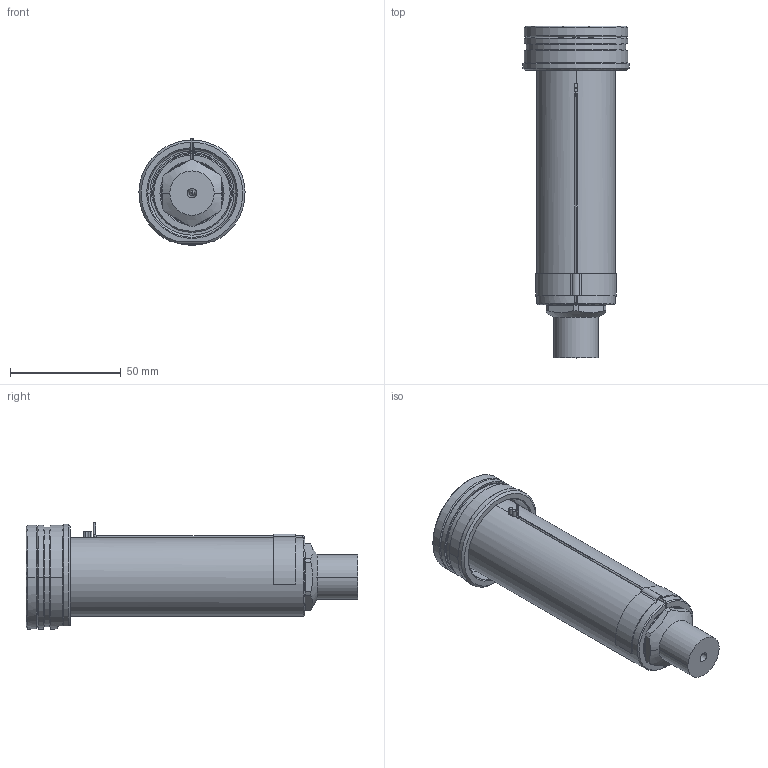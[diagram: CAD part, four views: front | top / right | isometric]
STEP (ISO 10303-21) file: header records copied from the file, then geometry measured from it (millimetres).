
FILE_DESCRIPTION((''),'2;1');
FILE_NAME('EO16_PG-FBE_WR_120_SW','2024-02-19T12:09:16',('sundharh'),(''),'CREO PARAMETRIC BY PTC INC, 2023154','CREO PARAMETRIC BY PTC INC, 2023154','');
FILE_SCHEMA(('CONFIG_CONTROL_DESIGN'));
Length unit declared in the file: millimetre
Products named in the file (1): EO16_PG-FBE_WR_120_SW
Bounding box: 47.97 x 150 x 48 mm (x, y, z)
Volume: 121168.4 mm3; surface area: 33078.7 mm2
Topology: 1 solids, 1 shells, 207 faces, 542 edges, 333 vertices
Faces by surface type: cylinder 81, plane 59, cone 43, torus 14, bspline 7, sphere 3
Entity records: 7490 total; most frequent: CARTESIAN_POINT 2298, DIRECTION 1149, ORIENTED_EDGE 1068, EDGE_CURVE 534, AXIS2_PLACEMENT_3D 479, VERTEX_POINT 333, CIRCLE 279, EDGE_LOOP 225
